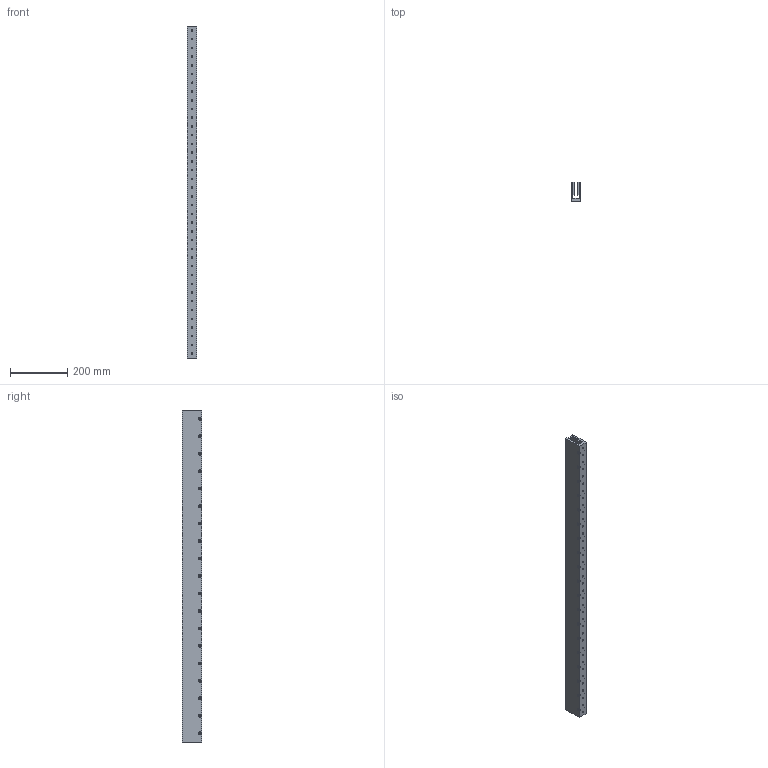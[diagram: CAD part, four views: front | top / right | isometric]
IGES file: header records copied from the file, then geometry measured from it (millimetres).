
Global section: file name: No Iges File Name specified; native system: Autodesk Inventor 2012; preprocessor: AutoDesk Inventor Iges Exporter R2012; author: je17857; date: 20120511.155329; units: inch
Bounding box: 34.29 x 67.31 x 1157.99 mm (x, y, z)
Volume: 1707015.2 mm3; surface area: 445776 mm2
Topology: 1 solids, 1 shells, 561 faces, 1297 edges, 871 vertices
Faces by surface type: plane 447, revolution 114
